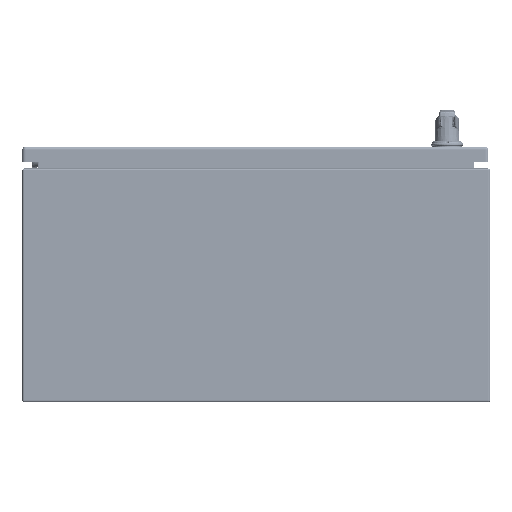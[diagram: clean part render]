
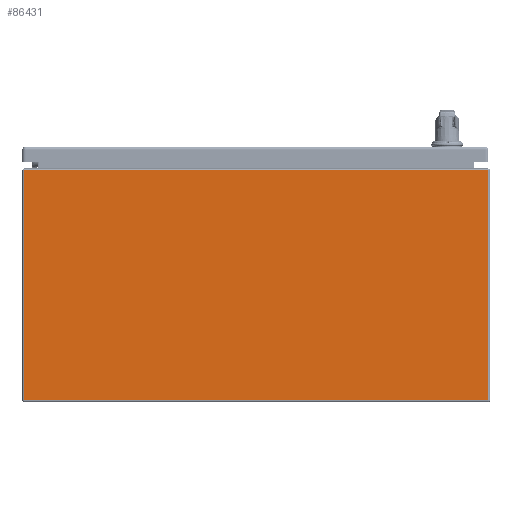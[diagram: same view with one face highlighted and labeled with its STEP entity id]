
A CAD part, front view. The second image highlights one B-rep face of the part: STEP entity #86431.
In plain terms, the highlighted planar face has unit normal (0, -1, 0).
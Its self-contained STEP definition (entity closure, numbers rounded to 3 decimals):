
#7818=LINE('',#123195,#13220);
#7821=LINE('',#123217,#13223);
#7822=LINE('',#123219,#13224);
#7823=LINE('',#123220,#13225);
#13220=VECTOR('',#101182,0.394);
#13223=VECTOR('',#101213,0.394);
#13224=VECTOR('',#101214,0.394);
#13225=VECTOR('',#101215,0.394);
#20073=FACE_OUTER_BOUND('',#25421,.T.);
#25421=EDGE_LOOP('',(#57779,#57780,#57781,#57782));
#35175=VERTEX_POINT('',#123184);
#35178=VERTEX_POINT('',#123194);
#35183=VERTEX_POINT('',#123216);
#35184=VERTEX_POINT('',#123218);
#43921=EDGE_CURVE('',#35175,#35178,#7818,.T.);
#43932=EDGE_CURVE('',#35183,#35175,#7821,.T.);
#43933=EDGE_CURVE('',#35183,#35184,#7822,.T.);
#43934=EDGE_CURVE('',#35178,#35184,#7823,.T.);
#57779=ORIENTED_EDGE('',*,*,#43921,.F.);
#57780=ORIENTED_EDGE('',*,*,#43932,.F.);
#57781=ORIENTED_EDGE('',*,*,#43933,.T.);
#57782=ORIENTED_EDGE('',*,*,#43934,.F.);
#84763=PLANE('',#92795);
#86431=ADVANCED_FACE('',(#20073),#84763,.T.);
#92795=AXIS2_PLACEMENT_3D('',#123215,#101211,#101212);
#101182=DIRECTION('',(1.,0.,0.));
#101211=DIRECTION('center_axis',(0.,-1.,0.));
#101212=DIRECTION('ref_axis',(-1.,0.,0.));
#101213=DIRECTION('',(0.,0.,1.));
#101214=DIRECTION('',(1.,0.,0.));
#101215=DIRECTION('',(0.,0.,-1.));
#123184=CARTESIAN_POINT('',(-11.901,-30.,11.901));
#123194=CARTESIAN_POINT('',(11.901,-30.,11.901));
#123195=CARTESIAN_POINT('',(0.025,-30.,11.901));
#123215=CARTESIAN_POINT('Origin',(12.,-30.,12.));
#123216=CARTESIAN_POINT('',(-11.901,-30.,0.099));
#123217=CARTESIAN_POINT('',(-11.901,-30.,6.));
#123218=CARTESIAN_POINT('',(11.901,-30.,0.099));
#123219=CARTESIAN_POINT('',(-5.951,-30.,0.099));
#123220=CARTESIAN_POINT('',(11.901,-30.,6.));
